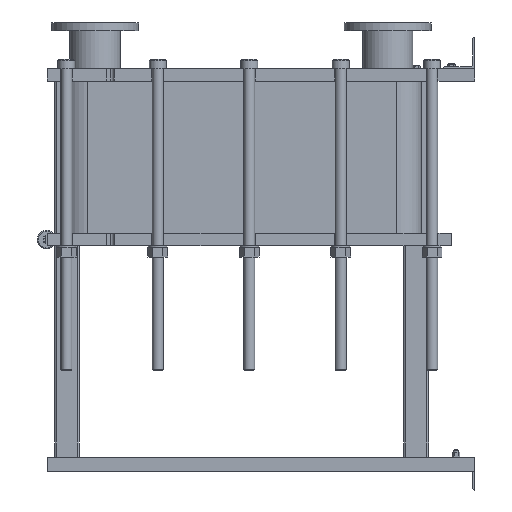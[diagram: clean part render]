
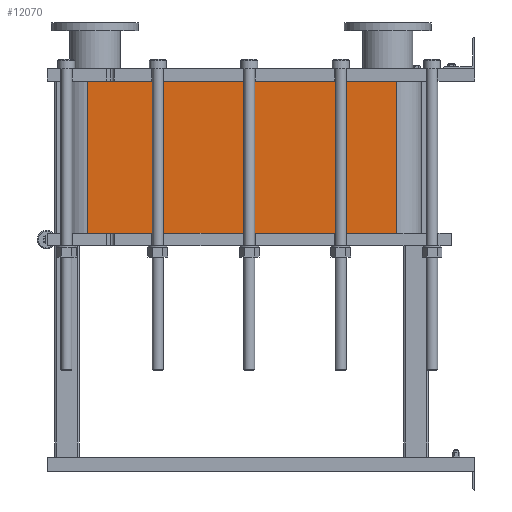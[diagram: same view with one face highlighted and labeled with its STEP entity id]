
A CAD part, left-side view. The second image highlights one B-rep face of the part: STEP entity #12070.
In plain terms, the highlighted planar face has unit normal (-1, 0, 0).
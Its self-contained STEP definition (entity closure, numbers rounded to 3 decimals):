
#1064=LINE('',#21140,#2164);
#1065=LINE('',#21144,#2165);
#1066=LINE('',#21146,#2166);
#1067=LINE('',#21147,#2167);
#2164=VECTOR('',#15790,10.);
#2165=VECTOR('',#15795,10.);
#2166=VECTOR('',#15796,10.);
#2167=VECTOR('',#15797,10.);
#3304=FACE_OUTER_BOUND('',#4091,.T.);
#4091=EDGE_LOOP('',(#9793,#9794,#9795,#9796));
#5677=VERTEX_POINT('',#21137);
#5678=VERTEX_POINT('',#21139);
#5679=VERTEX_POINT('',#21143);
#5680=VERTEX_POINT('',#21145);
#7118=EDGE_CURVE('',#5678,#5677,#1064,.T.);
#7120=EDGE_CURVE('',#5677,#5679,#1065,.T.);
#7121=EDGE_CURVE('',#5680,#5679,#1066,.T.);
#7122=EDGE_CURVE('',#5680,#5678,#1067,.T.);
#9793=ORIENTED_EDGE('',*,*,#7120,.T.);
#9794=ORIENTED_EDGE('',*,*,#7121,.F.);
#9795=ORIENTED_EDGE('',*,*,#7122,.T.);
#9796=ORIENTED_EDGE('',*,*,#7118,.T.);
#11441=PLANE('',#13191);
#12070=ADVANCED_FACE('',(#3304),#11441,.T.);
#13191=AXIS2_PLACEMENT_3D('',#21142,#15793,#15794);
#15790=DIRECTION('',(0.,0.,-1.));
#15793=DIRECTION('center_axis',(-1.,0.,0.));
#15794=DIRECTION('ref_axis',(0.,1.,0.));
#15795=DIRECTION('',(0.,-1.,0.));
#15796=DIRECTION('',(0.,0.,-1.));
#15797=DIRECTION('',(0.,1.,0.));
#21137=CARTESIAN_POINT('',(-248.152,1243.818,-489.9));
#21139=CARTESIAN_POINT('',(-248.152,1243.818,0.));
#21140=CARTESIAN_POINT('',(-248.152,1243.818,0.));
#21142=CARTESIAN_POINT('Origin',(-248.152,251.818,0.));
#21143=CARTESIAN_POINT('',(-248.152,251.818,-489.9));
#21144=CARTESIAN_POINT('',(-248.152,499.818,-489.9));
#21145=CARTESIAN_POINT('',(-248.152,251.818,0.));
#21146=CARTESIAN_POINT('',(-248.152,251.818,0.));
#21147=CARTESIAN_POINT('',(-248.152,251.818,0.));
